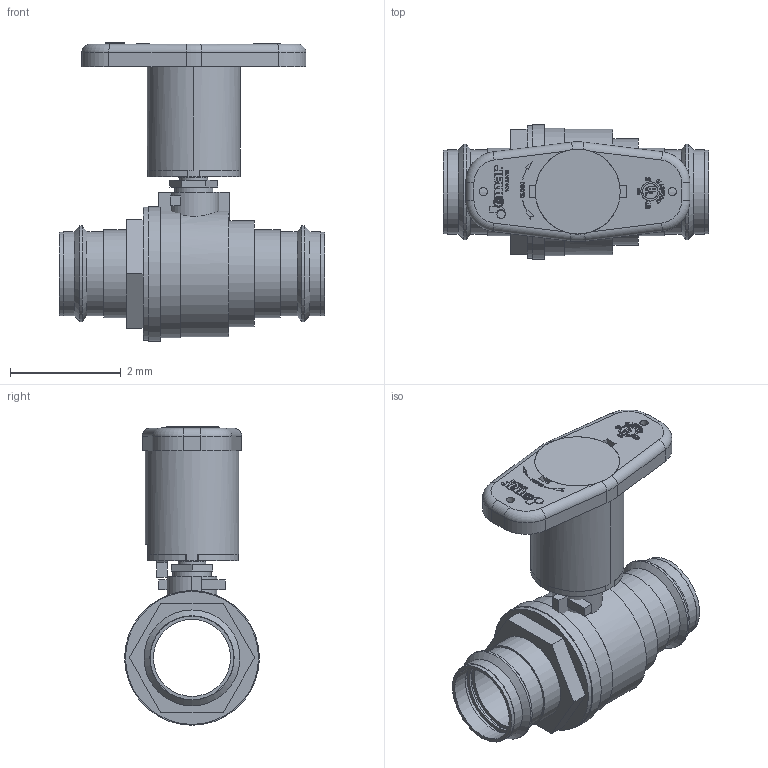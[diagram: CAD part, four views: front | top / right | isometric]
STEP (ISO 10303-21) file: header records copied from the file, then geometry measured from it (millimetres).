
FILE_DESCRIPTION(('Open CASCADE Model'),'2;1');
FILE_NAME('Open CASCADE Shape Model','2021-10-14T09:02:03',('Author'),( 'Open CASCADE'),'Open CASCADE STEP processor 7.3','Open CASCADE 7.3' ,'Unknown');
FILE_SCHEMA(('AUTOMOTIVE_DESIGN { 1 0 10303 214 1 1 1 1 }'));
Length unit declared in the file: millimetre
Products named in the file (163): Open CASCADE STEP translator 7.3 1; Open CASCADE STEP translator 7.3 1.1; Open CASCADE STEP translator 7.3 1.1.1; Open CASCADE STEP translator 7.3 1.1.2; Open CASCADE STEP translator 7.3 1.1.2.1; Open CASCADE STEP translator 7.3 1.1.2.2; Open CASCADE STEP translator 7.3 1.2; Open CASCADE STEP translator 7.3 1.3; Open CASCADE STEP translator 7.3 1.4; Open CASCADE STEP translator 7.3 1.5; Open CASCADE STEP translator 7.3 1.6; Open CASCADE STEP translator 7.3 1.7; Open CASCADE STEP translator 7.3 1.8; Open CASCADE STEP translator 7.3 1.9; Open CASCADE STEP translator 7.3 1.10; Open CASCADE STEP translator 7.3 1.11; Open CASCADE STEP translator 7.3 1.12; Open CASCADE STEP translator 7.3 1.13; Open CASCADE STEP translator 7.3 1.14; Open CASCADE STEP translator 7.3 1.15; Open CASCADE STEP translator 7.3 1.15.1; Open CASCADE STEP translator 7.3 1.15.2; Open CASCADE STEP translator 7.3 1.15.3; Open CASCADE STEP translator 7.3 1.15.4; Open CASCADE STEP translator 7.3 1.15.5; Open CASCADE STEP translator 7.3 1.15.6; Open CASCADE STEP translator 7.3 1.15.7; Open CASCADE STEP translator 7.3 1.15.8; Open CASCADE STEP translator 7.3 1.15.9; Open CASCADE STEP translator 7.3 1.15.10; Open CASCADE STEP translator 7.3 1.15.11; Open CASCADE STEP translator 7.3 1.15.12; Open CASCADE STEP translator 7.3 1.15.13; Open CASCADE STEP translator 7.3 1.15.14; Open CASCADE STEP translator 7.3 1.15.15; Open CASCADE STEP translator 7.3 1.15.16; Open CASCADE STEP translator 7.3 1.15.17; Open CASCADE STEP translator 7.3 1.15.18; Open CASCADE STEP translator 7.3 1.15.19; Open CASCADE STEP translator 7.3 1.15.20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
Assembly tree (162 placements, depth 4):
  Open CASCADE STEP translator 7.3 1
    Open CASCADE STEP translator 7.3 1.1
      Open CASCADE STEP translator 7.3 1.1.1
      Open CASCADE STEP translator 7.3 1.1.2
        Open CASCADE STEP translator 7.3 1.1.2.1
        Open CASCADE STEP translator 7.3 1.1.2.2
    Open CASCADE STEP translator 7.3 1.2
    Open CASCADE STEP translator 7.3 1.3
    Open CASCADE STEP translator 7.3 1.4
    Open CASCADE STEP translator 7.3 1.5
    Open CASCADE STEP translator 7.3 1.6
    Open CASCADE STEP translator 7.3 1.7
    Open CASCADE STEP translator 7.3 1.8
    Open CASCADE STEP translator 7.3 1.9
    Open CASCADE STEP translator 7.3 1.10
    Open CASCADE STEP translator 7.3 1.11
    Open CASCADE STEP translator 7.3 1.12
    Open CASCADE STEP translator 7.3 1.13
    Open CASCADE STEP translator 7.3 1.14
    Open CASCADE STEP translator 7.3 1.15
      Open CASCADE STEP translator 7.3 1.15.1
      Open CASCADE STEP translator 7.3 1.15.2
      Open CASCADE STEP translator 7.3 1.15.3
      Open CASCADE STEP translator 7.3 1.15.4
      Open CASCADE STEP translator 7.3 1.15.5
      Open CASCADE STEP translator 7.3 1.15.6
      Open CASCADE STEP translator 7.3 1.15.7
      Open CASCADE STEP translator 7.3 1.15.8
      Open CASCADE STEP translator 7.3 1.15.9
      Open CASCADE STEP translator 7.3 1.15.10
      Open CASCADE STEP translator 7.3 1.15.11
      Open CASCADE STEP translator 7.3 1.15.12
      Open CASCADE STEP translator 7.3 1.15.13
      Open CASCADE STEP translator 7.3 1.15.14
      Open CASCADE STEP translator 7.3 1.15.15
      Open CASCADE STEP translator 7.3 1.15.16
      Open CASCADE STEP translator 7.3 1.15.17
      Open CASCADE STEP translator 7.3 1.15.18
      Open CASCADE STEP translator 7.3 1.15.19
      Open CASCADE STEP translator 7.3 1.15.20
      Open CASCADE STEP translator 7.3 1.15.21
      Open CASCADE STEP translator 7.3 1.15.22
      Open CASCADE STEP translator 7.3 1.15.23
      Open CASCADE STEP translator 7.3 1.15.24
      Open CASCADE STEP translator 7.3 1.15.25
      Open CASCADE STEP translator 7.3 1.15.26
      Open CASCADE STEP translator 7.3 1.15.27
      Open CASCADE STEP translator 7.3 1.15.28
      Open CASCADE STEP translator 7.3 1.15.29
      Open CASCADE STEP translator 7.3 1.15.30
      Open CASCADE STEP translator 7.3 1.15.31
      Open CASCADE STEP translator 7.3 1.15.32
      Open CASCADE STEP translator 7.3 1.15.33
      Open CASCADE STEP translator 7.3 1.15.34
      Open CASCADE STEP translator 7.3 1.15.35
      Open CASCADE STEP translator 7.3 1.15.36
      Open CASCADE STEP translator 7.3 1.15.37
      Open CASCADE STEP translator 7.3 1.15.38
      Open CASCADE STEP translator 7.3 1.15.39
      Open CASCADE STEP translator 7.3 1.15.40
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Bounding box: 4.8 x 2.43 x 5.39 mm (x, y, z)
Volume: 3.1 mm3; surface area: 118.5 mm2
Topology: 45 solids, 159 shells, 2716 faces, 7893 edges, 5354 vertices
Faces by surface type: plane 2567, cylinder 131, torus 6, extrusion 6, cone 6
Full cylindrical faces by diameter (mm): 0.018 x1, 0.021 x1, 0.053 x1, 0.075 x1, 0.149 x1, 0.15 x2, 0.175 x1, 0.43 x1, 0.5 x1, 0.688 x1, 0.9 x1, 1.333 x1, 1.39 x7, 1.482 x1, 1.508 x2, 1.52 x8, 1.534 x1, 1.586 x1, 1.588 x1, 1.73 x2, 1.914 x1, 2.262 x1, 2.304 x1, 2.4 x1, 2.432 x1
Entity records: 193175 total; most frequent: CARTESIAN_POINT 33693, DIRECTION 29213, VECTOR 22599, LINE 22593, ORIENTED_EDGE 15430, PCURVE 15430, DEFINITIONAL_REPRESENTATION 15430, EDGE_CURVE 7893
